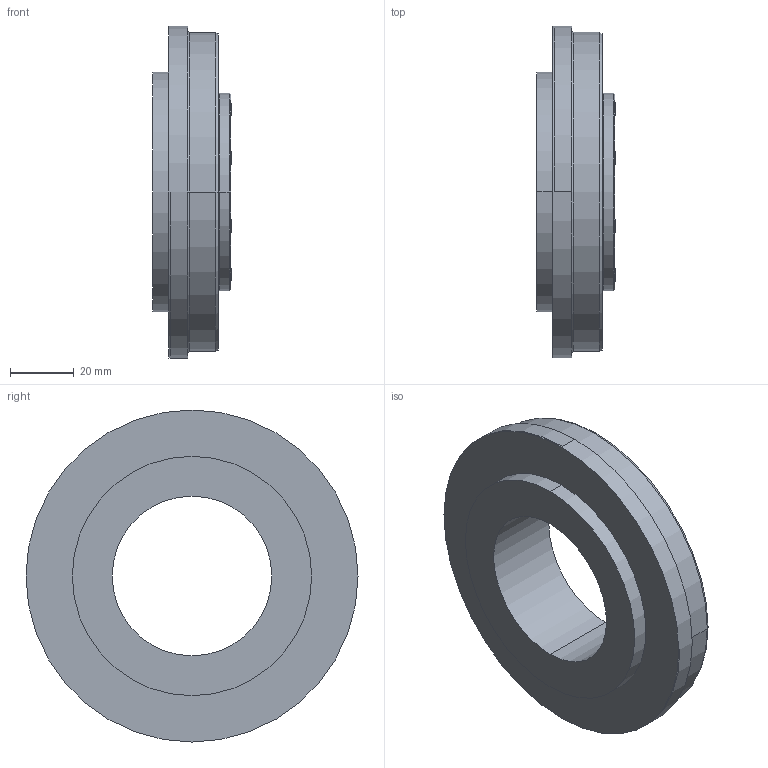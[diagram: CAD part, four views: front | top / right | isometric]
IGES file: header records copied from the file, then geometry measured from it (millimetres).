
Start section:  PTC IGES file: gp25-c00_t-axis.igs
Global section: file name: gp25-c00_t-axis.igs; native system: Creo Parametric by Parametric Technology Corporation; preprocessor: 2015030; author: ip-naka; organization: Unknown; date: 20180604.190601; units: millimetre
Bounding box: 24.66 x 104 x 104 mm (x, y, z)
Volume: 110648 mm3; surface area: 35383.9 mm2
Topology: 1 solids, 9 shells, 109 faces, 480 edges, 577 vertices
Faces by surface type: revolution 84, bspline 25
